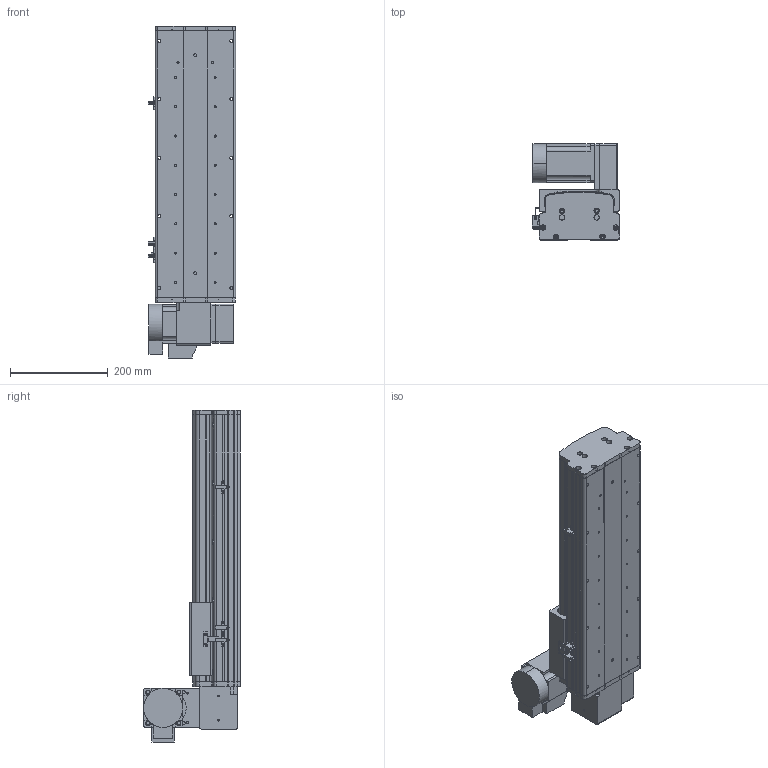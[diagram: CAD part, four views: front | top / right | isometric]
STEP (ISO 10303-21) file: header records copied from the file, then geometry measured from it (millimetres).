
FILE_DESCRIPTION (( 'STEP AP214' ), '1' );
FILE_NAME ('KSD165B-S300-MRU-CM.STEP', '2017-10-17T01:58:47', ( '微软用户' ), ( '微软中国' ), 'SwSTEP 2.0', 'SolidWorks 2014', '' );
FILE_SCHEMA (( 'AUTOMOTIVE_DESIGN' ));
Length unit declared in the file: millimetre
Products named in the file (18): 覜茼え68遵圉猾敕; KSD165模组-同步带-防撞垫2; KSD165模组同步带-防撞垫1; KSD165耀郪-ヶ傷啣1-肮祭湍; KSD165模组-后端板1-同步带; KSD165模组-同步带滑动座-最新版; KSD165B-S300-MRU-CM; 拸秶雄ん750W侜督萇儂; 165宽马达安装板同步带右; KSD165模组-同步带防尘盖1-300行程-最新版; KSD165模组同步带底板-300行程-最新; HTPA26S5M250-A-H8 750W萇儂蚚; HTPA26S5M250-A-H8 400W萇儂蚚 ; 130宽模组马达安装板连板上下折丝杆同步带; 130宽模组保护罩上下左右折-同步带; 肣翐M4X35樓6; U倰嫖萇假蚾璃; U倰嫖萇EEㄜSX672
Assembly tree (22 placements, depth 2):
  KSD165B-S300-MRU-CM
    KSD165模组-同步带滑动座-最新版
    KSD165模组-后端板1-同步带
    KSD165耀郪-ヶ傷啣1-肮祭湍
    KSD165模组同步带-防撞垫1
    KSD165模组-同步带-防撞垫2
    覜茼え68遵圉猾敕
    U倰嫖萇EEㄜSX672  x3
    U倰嫖萇假蚾璃  x3
    肣翐M4X35樓6  x2
    130宽模组保护罩上下左右折-同步带
    130宽模组马达安装板连板上下折丝杆同步带
    HTPA26S5M250-A-H8 400W萇儂蚚 
    HTPA26S5M250-A-H8 750W萇儂蚚
    KSD165模组同步带底板-300行程-最新
    KSD165模组-同步带防尘盖1-300行程-最新版
    165宽马达安装板同步带右
    拸秶雄ん750W侜督萇儂
Bounding box: 178.7 x 198 x 680.5 mm (x, y, z)
Volume: 4761429.6 mm3; surface area: 1098601.5 mm2
Topology: 23 solids, 23 shells, 1897 faces, 5324 edges, 3470 vertices
Faces by surface type: cylinder 1187, plane 594, cone 116
Entity records: 60230 total; most frequent: CARTESIAN_POINT 12314, DIRECTION 9966, ORIENTED_EDGE 9236, EDGE_CURVE 4618, AXIS2_PLACEMENT_3D 3891, VERTEX_POINT 3041, CIRCLE 2204, VECTOR 2184
